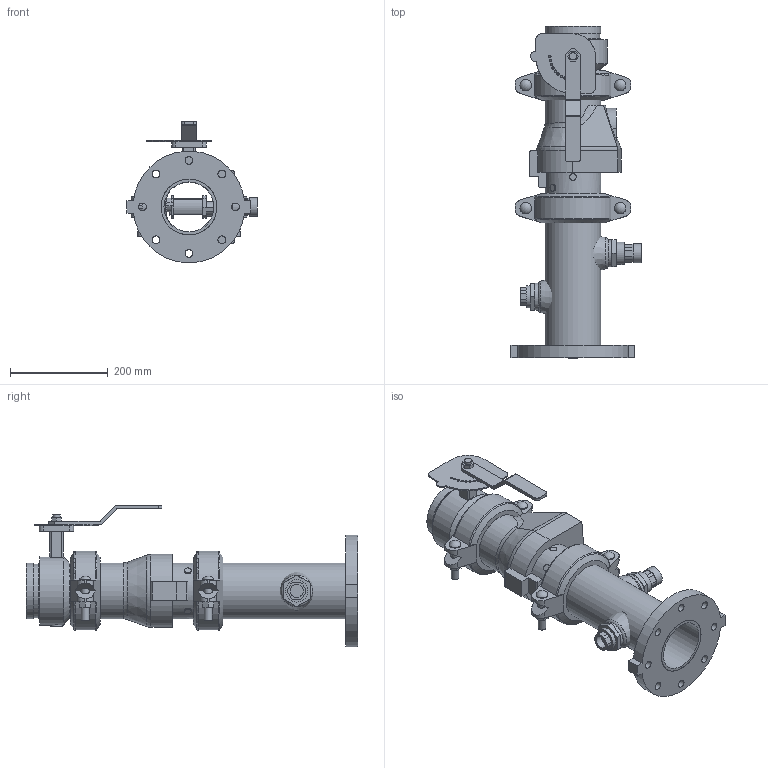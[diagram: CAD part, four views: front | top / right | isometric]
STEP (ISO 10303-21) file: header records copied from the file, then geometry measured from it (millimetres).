
FILE_DESCRIPTION(/* description */ ('VIC DVI PUMP DROP VERT S/380 (OGSxFLG) (S/924-0.75)','CAx-IF Rec.Pracs.---Representation and Presentation of Product Manufacturing Information (PMI)---4.0---2014-10-13'),/* implementation_level */ '2;1');
FILE_NAME(/* name */ 'C:\Users\Public\Documents\Victaulic.Temp\A765\Victaulic_IPS_Vertical DVI_CL 150_Series 380 (OGSxFLG)_924 (0.75)_04.0x04.0 (100x100).stp',/* time_stamp */ '2022-07-25T11:11:00+02:00',/* author */ ('Vjadhav'),/* organization */ ('Victaulic'),/* preprocessor_version */ 'ST-DEVELOPER v18',/* originating_system */ 'Autodesk Inventor 2020',/* authorisation */ '');
FILE_SCHEMA (('AP242_MANAGED_MODEL_BASED_3D_ENGINEERING_MIM_LF { 1 0 10303 442 1 1 4 }'));
Length unit declared in the file: inch
Products named in the file (8): 380_924 (0.75)-04.0x04.0; 741-04.0; Pipe-04.0x04.0; 177N-04.0; 761-04.0; 779-04.0; 923-04.0x0.75; 924-04.0x0.75
Assembly tree (8 placements, depth 2):
  380_924 (0.75)-04.0x04.0
    741-04.0
    Pipe-04.0x04.0
    177N-04.0  x2
    761-04.0
    779-04.0
    923-04.0x0.75
    924-04.0x0.75
Bounding box: 266.45 x 679.45 x 288.88 mm (x, y, z)
Volume: 5500823.4 mm3; surface area: 944604.3 mm2
Topology: 8 solids, 9 shells, 486 faces, 1262 edges, 841 vertices
Faces by surface type: plane 283, cylinder 169, cone 14, torus 14, sphere 4, bspline 2
Full cylindrical faces by diameter (mm): 4.826 x10, 8.636 x4, 13.716 x2, 14.986 x2, 15.875 x12, 22.86 x1, 23.495 x4, 26.67 x2, 38.608 x1, 45.974 x4, 55.118 x1, 55.626 x2, 101.6 x2, 102.26 x3, 110.084 x6, 114.3 x16, 139.7 x1
Entity records: 13532 total; most frequent: CARTESIAN_POINT 2694, DIRECTION 2226, ORIENTED_EDGE 2042, EDGE_CURVE 1021, AXIS2_PLACEMENT_3D 837, VERTEX_POINT 681, LINE 552, VECTOR 552
